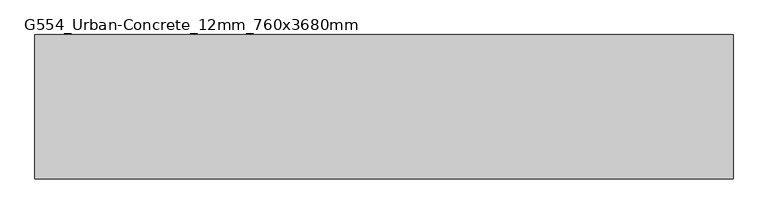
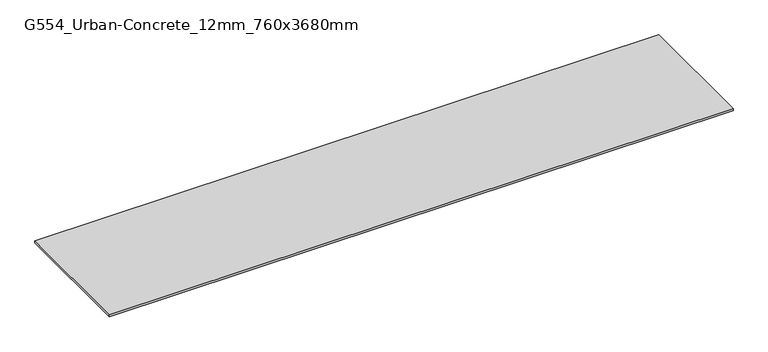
"""IFC4 building model written with IfcOpenShell, lengths in millimetres: proxy geometry, Kitchen_Counter-Tops_Indoor-Material_HI-MACS_Concrete : G554_Urban-Concrete_12mm_760x3680mm."""

from ifc_helpers import new_model, si_unit, origin, origin_with_axes, place, context, project, spatial, polyline, outline, extrude, source, transform, mapped, element, save


def g554_urban_concrete_12mm_760x3680mm_7f56e2ab(model_context):
    return source(origin(), model_context, "Body", "SweptSolid", [
        extrude(outline(polyline([(1840.0, 380.0), (1840.0, -380.0), (-1840.0, -380.0), (-1840.0, 380.0), (1840.0, 380.0)])), origin_with_axes(), (0.0, 0.0, 1.0), 12.0),
    ])


if __name__ == "__main__":
    model = new_model("IFC4")
    model_context = context("Model", 3, world=origin())
    ifc_project = project(units=[si_unit("LENGTHUNIT", "METRE", prefix="MILLI")], contexts=[model_context])
    site = spatial("IfcSite", under=ifc_project)
    building = spatial("IfcBuilding", under=site)
    placement = place(None, origin())
    g554_urban_concrete_12mm_760x3680mm_shape = g554_urban_concrete_12mm_760x3680mm_7f56e2ab(model_context)
    element("IfcBuildingElementProxy", 1, Name="Kitchen_Counter-Tops_Indoor-Material_HI-MACS_Concrete : G554_Urban-Concrete_12mm_760x3680mm", ObjectType="Kitchen_Counter-Tops_Indoor-Material_HI-MACS_Concrete : G554_Urban-Concrete_12mm_760x3680mm", at=placement, inside=building, context=model_context, shape_type="MappedRepresentation", body=[
        mapped(g554_urban_concrete_12mm_760x3680mm_shape, transform((0.0, 0.0, 0.0), x_axis=(1.0, 0.0, 0.0), y_axis=(0.0, 1.0, 0.0), z_axis=(0.0, 0.0, 1.0))),
    ])
    save(model, "model.ifc")
